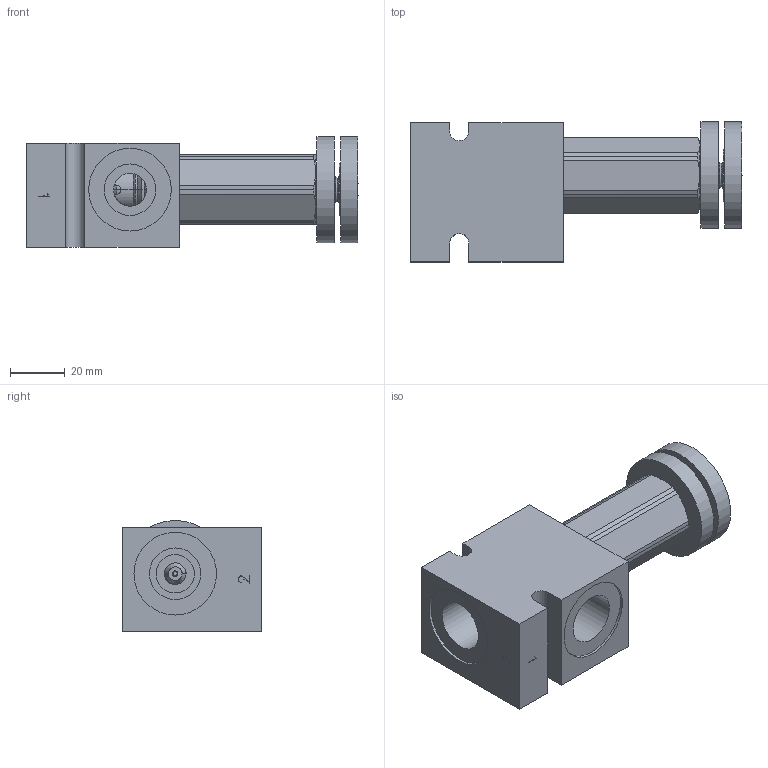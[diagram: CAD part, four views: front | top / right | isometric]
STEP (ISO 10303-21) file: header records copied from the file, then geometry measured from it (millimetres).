
FILE_DESCRIPTION( ( 'Unknown' ), '1' );
FILE_NAME( 'G:/Graphic Design/Graphic Design 2/Data Sheets/PRESSURE CONTROLS/2_STEP/Differential Area Relief Valves/D-DERWD0K-C2.stp', 'Unknown', ( 'Unknown' ), ( 'Unknown' ), 'PSStep 16.0.42', 'Unknown', ' ' );
FILE_SCHEMA( ( 'AUTOMOTIVE_DESIGN { 1 0 10303 214 1 1 1 1 }' ) );
Length unit declared in the file: millimetre
Products named in the file (11): DERWD0K; DERWD0K-3D Full1; DERWD0K-3D Full2; DERWD0K-3D Full3; DERWD0K-3D Full5; DERWD0K-3D Full6; DERWD0K-3D Full4; Assem1; B-DDEC2
Assembly tree (10 placements, depth 3):
  Assem1
    B-DDEC2
    DERWD0K
      DERWD0K-3D Full1
      DERWD0K-3D Full2
      DERWD0K-3D Full3
      DERWD0K-3D Full5
      DERWD0K-3D Full6
      DERWD0K-3D Full4
      DERWD0K-3D Full4
      DERWD0K-3D Full4
Bounding box: 121.29 x 51.13 x 40.53 mm (x, y, z)
Surface area: 35112.6 mm2 (no closed solid volume)
Topology: 0 solids, 295 shells, 295 faces, 1326 edges, 1290 vertices
Faces by surface type: cone 121, plane 99, cylinder 73, torus 2
Full cylindrical faces by diameter (mm): 0.2 x2, 9.525 x2, 12 x1, 13.043 x1, 14 x1, 15.735 x1, 15.9 x1, 17.043 x1, 18.8 x4, 19.05 x2, 20.262 x2, 30.17 x2, 30.175 x1, 38.862 x2
Entity records: 18996 total; most frequent: CARTESIAN_POINT 7151, DIRECTION 1750, VERTEX_POINT 1280, ORIENTED_EDGE 1278, EDGE_CURVE 1278, AXIS2_PLACEMENT_3D 633, LINE 484, VECTOR 484
